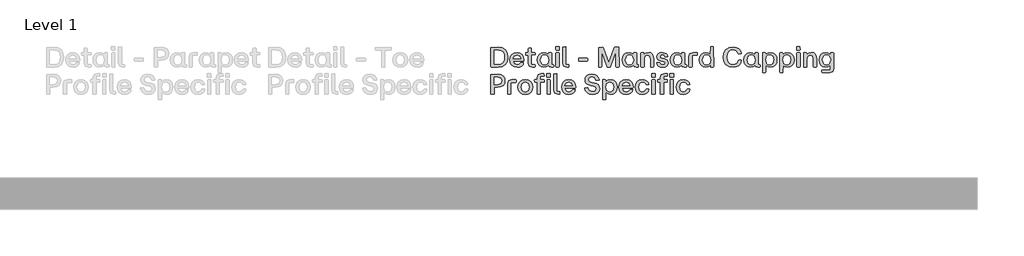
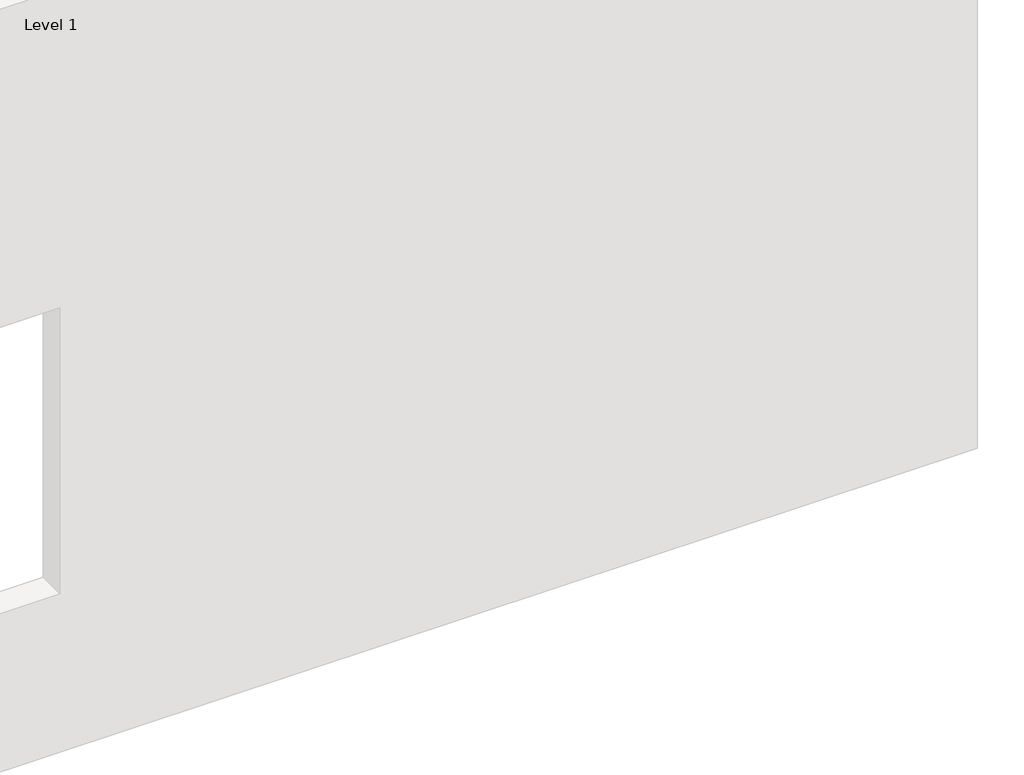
# One storey, part 64 of 64: 1 proxy.
"""IFC4 building model written with IfcOpenShell, lengths in millimetres."""

from ifc_helpers import new_model, si_unit, origin, origin_with_axes, place, context, project, spatial, polyline, outline, extrude, element, save

model = new_model("IFC4")

# Units and contexts
model_context = context("Model", 3, world=origin())
ifc_project = project(units=[si_unit("LENGTHUNIT", "METRE", prefix="MILLI")], contexts=[model_context])

# Site, building, storey
site = spatial("IfcSite", under=ifc_project)
building = spatial("IfcBuilding", under=site)
storey = spatial("IfcBuildingStorey", under=building, Name="Level 1", Elevation=0.0)

# Proxy
placement = place(None, origin())
element("IfcBuildingElementProxy", 1, Name="90mm", ObjectType="90mm", at=placement, inside=storey, context=model_context, shape_type="SweptSolid", body=[
    extrude(outline(polyline([(18110.2926176, 6000.0), (18108.9872124, 6001.2551973), (18108.9872124, 6088.6922388), (18142.5511873, 6089.997644), (18160.5475781, 6086.9945845), (18174.1193986, 6077.9854062), (18182.63905, 6063.6416394), (18185.4789338, 6044.6348148), (18182.648464, 6025.7974418), (18174.1570545, 6011.7109905), (18160.594648, 6002.9277476), (18142.5511873, 6000.0), (18110.2926176, 6000.0)]), holes=[polyline([(18123.7985402, 6012.6272845), (18141.6725492, 6012.6272845), (18153.8950326, 6014.688946), (18162.9481429, 6020.8739305), (18168.5494607, 6030.9374746), (18170.4165666, 6044.6348148), (18168.5431847, 6058.4890546), (18162.923039, 6068.8224661), (18153.8636527, 6075.2522141), (18141.6725492, 6077.3954634), (18123.7985402, 6077.3954634), (18123.7985402, 6012.6272845)])]), origin_with_axes(), (0.0, 0.0, 1.0), 20.0),
    extrude(outline(polyline([(18227.628458, 5999.2468816), (18214.0409476, 6001.5156507), (18203.5035666, 6008.3219579), (18196.7443293, 6018.9377888), (18194.4912502, 6032.6351289), (18196.7349153, 6046.4987827), (18203.4659107, 6057.2118914), (18213.9938777, 6064.0652685), (18227.628458, 6066.3497275), (18240.1584647, 6064.0966484), (18249.7324819, 6057.3374111), (18255.8044987, 6046.6870623), (18257.8285043, 6032.7606486), (18257.8285043, 6029.3214081), (18256.573307, 6027.990899), (18209.1268503, 6027.990899), (18214.6497183, 6015.3134066), (18227.628458, 6010.7946965), (18238.0465953, 6013.0917075), (18243.4439436, 6019.5308695), (18244.8246606, 6020.5852352), (18256.1967478, 6020.5852352), (18254.1633282, 6011.2685335), (18247.8120301, 6004.8074055), (18238.8248176, 6000.6370126), (18227.628458, 5999.2468816)]), holes=[polyline([(18209.2523701, 6038.4090363), (18243.8205028, 6038.4090363), (18239.0633051, 6050.3710663), (18227.628458, 6054.7266008), (18214.8631018, 6050.5844498), (18209.2523701, 6038.4090363)])]), origin_with_axes(), (0.0, 0.0, 1.0), 20.0),
    extrude(outline(polyline([(18296.6140998, 6000.0), (18282.731618, 6004.7697496), (18277.9618684, 6018.6522314), (18277.9618684, 6054.2245219), (18266.7906127, 6054.2245219), (18265.4852076, 6064.2661), (18266.7906127, 6065.5212973), (18277.9618684, 6065.5212973), (18277.9618684, 6083.54593), (18279.2170657, 6084.8513352), (18290.9657121, 6084.8513352), (18292.2209094, 6083.54593), (18292.2209094, 6065.5212973), (18308.0363949, 6065.5212973), (18309.3418001, 6064.2661), (18309.3418001, 6055.555031), (18292.2209094, 6054.2245219), (18292.2209094, 6011.2967754), (18308.0363949, 6011.2967754), (18309.3418001, 6010.0415781), (18309.3418001, 6001.2551973), (18308.0363949, 6000.0), (18296.6140998, 6000.0)])), origin_with_axes(), (0.0, 0.0, 1.0), 20.0),
    extrude(outline(polyline([(18347.2738615, 5999.2468816), (18335.3243835, 6001.5156507), (18326.0861316, 6008.3219579), (18320.1741525, 6018.9377888), (18318.2034928, 6032.6351289), (18320.1741525, 6046.4674028), (18326.0861316, 6057.1867875), (18335.3243835, 6064.0589925), (18347.2738615, 6066.3497275), (18359.1856835, 6063.4627738), (18368.160344, 6055.555031), (18368.7377347, 6064.2661), (18369.992932, 6065.5212973), (18381.6662665, 6065.5212973), (18382.9716717, 6064.2661), (18382.9716717, 6011.2967754), (18390.0760882, 6011.2967754), (18391.3312855, 6010.0415781), (18391.3312855, 6001.2551973), (18390.0760882, 6000.0), (18380.536589, 6000.0), (18372.1581473, 6002.3534949), (18369.3653333, 6009.4139795), (18359.7254183, 6002.1338354), (18347.2738615, 5999.2468816)]), holes=[polyline([(18332.7135732, 6032.6351289), (18337.6716024, 6016.6313638), (18343.5365116, 6012.2538633), (18351.2151809, 6010.7946965), (18358.7714684, 6012.2475873), (18364.470064, 6016.6062598), (18369.2398136, 6032.6351289), (18364.4324081, 6048.8271737), (18358.7243985, 6053.251744), (18351.2151809, 6054.7266008), (18343.5365116, 6053.251744), (18337.6716024, 6048.8271737), (18332.7135732, 6032.6351289)])]), origin_with_axes(), (0.0, 0.0, 1.0), 20.0),
    extrude(outline(polyline([(18403.6824266, 6000.0), (18402.3770214, 6001.2551973), (18402.3770214, 6064.2661), (18403.6824266, 6065.5212973), (18415.3557612, 6065.5212973), (18416.6109584, 6064.2661), (18416.6109584, 6001.2551973), (18415.3557612, 6000.0), (18403.6824266, 6000.0)])), origin_with_axes(), (0.0, 0.0, 1.0), 20.0),
    extrude(outline(polyline([(18401.3728636, 6078.1485818), (18401.3728636, 6092.0059596), (18402.6280609, 6093.3364687), (18416.4854387, 6093.3364687), (18417.8159478, 6078.1485818), (18416.4854387, 6076.8933845), (18402.6280609, 6076.8933845), (18401.3728636, 6078.1485818)])), origin_with_axes(), (0.0, 0.0, 1.0), 20.0),
    extrude(outline(polyline([(18451.5305464, 6000.0), (18437.6731686, 6004.7697496), (18432.903419, 6018.6522314), (18432.903419, 6091.2528413), (18445.8821587, 6092.5833504), (18447.137356, 6091.2528413), (18447.137356, 6011.2967754), (18459.1370418, 6011.2967754), (18460.3922391, 6010.0415781), (18460.3922391, 6001.2551973), (18459.1370418, 6000.0), (18451.5305464, 6000.0)])), origin_with_axes(), (0.0, 0.0, 1.0), 20.0),
    extrude(outline(polyline([(18505.1776775, 6027.112261), (18503.9224803, 6028.4427701), (18503.9224803, 6038.4090363), (18505.1776775, 6039.7395454), (18543.7875455, 6039.7395454), (18545.0427427, 6038.4090363), (18545.0427427, 6028.4427701), (18543.7875455, 6027.112261), (18505.1776775, 6027.112261)])), origin_with_axes(), (0.0, 0.0, 1.0), 20.0),
    extrude(outline(polyline([(18595.5016728, 6000.0), (18594.1962677, 6001.2551973), (18594.1962677, 6088.6922388), (18613.777345, 6089.997644), (18615.2835817, 6088.9432783), (18640.0611758, 6019.5308695), (18665.0396014, 6088.9432783), (18666.5458381, 6089.997644), (18685.0725498, 6089.997644), (18686.3779549, 6001.2551973), (18685.0725498, 6000.0), (18673.1481757, 6000.0), (18671.8176666, 6001.2551973), (18671.8176666, 6069.788968), (18647.4166318, 6001.0041578), (18645.910395, 6000.0), (18634.4127881, 6000.0), (18632.9065514, 6001.0041578), (18609.0075954, 6069.788968), (18608.5055165, 6001.2551973), (18607.1750074, 6000.0), (18595.5016728, 6000.0)])), origin_with_axes(), (0.0, 0.0, 1.0), 20.0),
    extrude(outline(polyline([(18729.6571566, 5999.2468816), (18717.7076787, 6001.5156507), (18708.4694268, 6008.3219579), (18702.5574477, 6018.9377888), (18700.586788, 6032.6351289), (18702.5574477, 6046.4674028), (18708.4694268, 6057.1867875), (18717.7076787, 6064.0589925), (18729.6571566, 6066.3497275), (18741.5689787, 6063.4627738), (18750.5436392, 6055.555031), (18751.1210299, 6064.2661), (18752.3762272, 6065.5212973), (18764.0495617, 6065.5212973), (18765.3549669, 6064.2661), (18765.3549669, 6011.2967754), (18772.4593834, 6011.2967754), (18773.7145807, 6010.0415781), (18773.7145807, 6001.2551973), (18772.4593834, 6000.0), (18762.9198842, 6000.0), (18754.5414425, 6002.3534949), (18751.7486285, 6009.4139795), (18742.1087135, 6002.1338354), (18729.6571566, 5999.2468816)]), holes=[polyline([(18715.0968684, 6032.6351289), (18720.0548976, 6016.6313638), (18725.9198068, 6012.2538633), (18733.5984761, 6010.7946965), (18741.1547636, 6012.2475873), (18746.8533592, 6016.6062598), (18751.6231088, 6032.6351289), (18746.8157033, 6048.8271737), (18741.1076937, 6053.251744), (18733.5984761, 6054.7266008), (18725.9198068, 6053.251744), (18720.0548976, 6048.8271737), (18715.0968684, 6032.6351289)])]), origin_with_axes(), (0.0, 0.0, 1.0), 20.0),
    extrude(outline(polyline([(18786.0657218, 6000.0), (18784.7603166, 6001.2551973), (18784.7603166, 6064.2661), (18786.0657218, 6065.5212973), (18797.1114577, 6065.5212973), (18798.366655, 6064.2661), (18798.366655, 6055.555031), (18807.6613908, 6063.6510534), (18819.5794888, 6066.3497275), (18829.5049612, 6064.4669316), (18836.7882433, 6058.8185439), (18841.2598836, 6049.5426361), (18842.7504303, 6036.7772799), (18842.7504303, 6001.2551973), (18841.4199212, 6000.0), (18829.7465867, 6000.0), (18828.4411815, 6001.2551973), (18828.4411815, 6036.7772799), (18824.9266292, 6050.057267), (18813.8181334, 6054.2245219), (18802.6092218, 6049.9945071), (18798.9942536, 6036.7772799), (18798.9942536, 6001.2551973), (18797.7390564, 6000.0), (18786.0657218, 6000.0)])), origin_with_axes(), (0.0, 0.0, 1.0), 20.0),
    extrude(outline(polyline([(18882.9418468, 5999.2468816), (18871.9996646, 6000.5742527), (18863.6243609, 6004.5563661), (18858.066975, 6011.017494), (18855.5785464, 6019.7819089), (18856.7082239, 6021.2128338), (18868.0803112, 6021.2128338), (18869.3355084, 6020.0329484), (18873.6282831, 6012.5519727), (18882.9418468, 6010.2926176), (18890.9751093, 6012.4264529), (18893.9875827, 6018.1501525), (18891.8286434, 6023.2964613), (18884.5233954, 6025.9825834), (18875.3604553, 6027.6143399), (18861.4528696, 6033.990742), (18856.9592634, 6046.7686501), (18858.6067098, 6054.7862227), (18863.549049, 6061.0151391), (18871.2842022, 6065.0160804), (18881.3100904, 6066.3497275), (18898.7573324, 6061.3916983), (18903.9224691, 6055.3949934), (18906.3638278, 6047.3209369), (18893.862063, 6045.8900121), (18892.481346, 6047.0698975), (18888.9165858, 6053.3835397), (18881.3100904, 6055.3039916), (18873.653387, 6053.3207799), (18871.0174728, 6047.5719764), (18872.9002687, 6042.5888432), (18879.7536457, 6039.8650652), (18889.5441844, 6038.0324772), (18903.966401, 6031.7564908), (18908.0457921, 6018.9032708), (18906.4140357, 6010.5154151), (18901.5187663, 6004.3304306), (18893.6110236, 6000.5177689), (18882.9418468, 5999.2468816)])), origin_with_axes(), (0.0, 0.0, 1.0), 20.0),
    extrude(outline(polyline([(18946.5552443, 5999.2468816), (18934.6057663, 6001.5156507), (18925.3675144, 6008.3219579), (18919.4555353, 6018.9377888), (18917.4848756, 6032.6351289), (18919.4555353, 6046.4674028), (18925.3675144, 6057.1867875), (18934.6057663, 6064.0589925), (18946.5552443, 6066.3497275), (18958.4670663, 6063.4627738), (18967.4417268, 6055.555031), (18968.0191175, 6064.2661), (18969.2743148, 6065.5212973), (18980.9476494, 6065.5212973), (18982.2530545, 6064.2661), (18982.2530545, 6011.2967754), (18989.357471, 6011.2967754), (18990.6126683, 6010.0415781), (18990.6126683, 6001.2551973), (18989.357471, 6000.0), (18979.8179718, 6000.0), (18971.4395301, 6002.3534949), (18968.6467161, 6009.4139795), (18959.0068011, 6002.1338354), (18946.5552443, 5999.2468816)]), holes=[polyline([(18931.994956, 6032.6351289), (18936.9529852, 6016.6313638), (18942.8178944, 6012.2538633), (18950.4965637, 6010.7946965), (18958.0528512, 6012.2475873), (18963.7514468, 6016.6062598), (18968.5211964, 6032.6351289), (18963.7137909, 6048.8271737), (18958.0057813, 6053.251744), (18950.4965637, 6054.7266008), (18942.8178944, 6053.251744), (18936.9529852, 6048.8271737), (18931.994956, 6032.6351289)])]), origin_with_axes(), (0.0, 0.0, 1.0), 20.0),
    extrude(outline(polyline([(19002.2860029, 6000.0), (19001.0308056, 6001.2551973), (19001.0308056, 6046.9443778), (19005.8005552, 6060.7892036), (19019.657933, 6065.5212973), (19037.9336052, 6065.5212973), (19039.1888025, 6064.2661), (19039.1888025, 6054.7266008), (19037.9336052, 6053.4714035), (19015.2647426, 6053.4714035), (19015.2647426, 6001.2551973), (19014.0095453, 6000.0), (19002.2860029, 6000.0)])), origin_with_axes(), (0.0, 0.0, 1.0), 20.0),
    extrude(outline(polyline([(19076.6940968, 5999.2468816), (19064.7446189, 6001.5156507), (19055.506367, 6008.3219579), (19049.5943878, 6018.9377888), (19047.6237281, 6032.6351289), (19049.5943878, 6046.4674028), (19055.506367, 6057.1867875), (19064.7446189, 6064.0589925), (19076.6940968, 6066.3497275), (19088.6059189, 6063.4627738), (19097.5805793, 6055.555031), (19098.1579701, 6091.2528413), (19099.4131673, 6092.5833504), (19111.0865019, 6092.5833504), (19112.3919071, 6001.2551973), (19111.0865019, 6000.0), (19100.040766, 6000.0), (19098.7855687, 6001.2551973), (19098.7855687, 6009.9160584), (19089.1456537, 6002.1338354), (19076.6940968, 5999.2468816)]), holes=[polyline([(19062.1338085, 6032.6351289), (19067.0918377, 6016.6313638), (19072.956747, 6012.2538633), (19080.6354162, 6010.7946965), (19088.1917038, 6012.2475873), (19093.8902994, 6016.6062598), (19098.660049, 6032.6351289), (19093.8526435, 6048.8271737), (19088.1446339, 6053.251744), (19080.6354162, 6054.7266008), (19072.956747, 6053.251744), (19067.0918377, 6048.8271737), (19062.1338085, 6032.6351289)])]), origin_with_axes(), (0.0, 0.0, 1.0), 20.0),
    extrude(outline(polyline([(19199.5779092, 5999.2468816), (19181.5658284, 6002.3315289), (19167.6958986, 6011.5854708), (19158.8467579, 6026.1112411), (19155.8970443, 6045.011374), (19158.8718618, 6063.5945695), (19167.7963144, 6078.1736857), (19181.6913481, 6087.6064932), (19199.5779092, 6090.7507624), (19213.5262888, 6088.6734109), (19225.0960696, 6082.4413564), (19233.4148895, 6072.7575095), (19237.6103864, 6060.3247806), (19224.4308151, 6058.8687518), (19222.9998902, 6059.9984293), (19215.1360793, 6073.6110437), (19199.5779092, 6078.1485818), (19187.6535352, 6075.9268826), (19178.5910109, 6069.2617852), (19172.8673114, 6058.755784), (19170.9594115, 6045.011374), (19172.8578974, 6031.0535804), (19178.553355, 6020.5601312), (19187.6064653, 6013.9891735), (19199.5779092, 6011.7988543), (19215.4436026, 6016.2736326), (19223.8785283, 6029.6979673), (19225.3094532, 6030.8778528), (19237.2338272, 6030.8778528), (19234.0613161, 6017.1208907), (19225.5981485, 6007.5311836), (19213.8400881, 6001.3179571), (19199.5779092, 5999.2468816)])), origin_with_axes(), (0.0, 0.0, 1.0), 20.0),
    extrude(outline(polyline([(19277.5256594, 5999.2468816), (19265.5761815, 6001.5156507), (19256.3379296, 6008.3219579), (19250.4259504, 6018.9377888), (19248.4552907, 6032.6351289), (19250.4259504, 6046.4674028), (19256.3379296, 6057.1867875), (19265.5761815, 6064.0589925), (19277.5256594, 6066.3497275), (19289.4374815, 6063.4627738), (19298.4121419, 6055.555031), (19298.9895327, 6064.2661), (19300.2447299, 6065.5212973), (19311.9180645, 6065.5212973), (19313.2234697, 6064.2661), (19313.2234697, 6011.2967754), (19320.3278862, 6011.2967754), (19321.5830835, 6010.0415781), (19321.5830835, 6001.2551973), (19320.3278862, 6000.0), (19310.788387, 6000.0), (19302.4099452, 6002.3534949), (19299.6171313, 6009.4139795), (19289.9772163, 6002.1338354), (19277.5256594, 5999.2468816)]), holes=[polyline([(19262.9653711, 6032.6351289), (19267.9234003, 6016.6313638), (19273.7883096, 6012.2538633), (19281.4669788, 6010.7946965), (19289.0232664, 6012.2475873), (19294.721862, 6016.6062598), (19299.4916116, 6032.6351289), (19294.6842061, 6048.8271737), (19288.9761965, 6053.251744), (19281.4669788, 6054.7266008), (19273.7883096, 6053.251744), (19267.9234003, 6048.8271737), (19262.9653711, 6032.6351289)])]), origin_with_axes(), (0.0, 0.0, 1.0), 20.0),
    extrude(outline(polyline([(19333.9342246, 5975.5989651), (19332.6288194, 5976.8541624), (19332.6288194, 6064.2661), (19333.9342246, 6065.5212973), (19344.9799605, 6065.5212973), (19346.2351578, 6064.2661), (19346.2351578, 6055.6805507), (19355.8750728, 6063.4627738), (19368.3266297, 6066.3497275), (19380.2761076, 6064.0746824), (19389.5143595, 6057.2495473), (19395.4263386, 6046.6086125), (19397.3969984, 6032.8861684), (19395.4263386, 6019.0789984), (19389.5143595, 6008.3847177), (19380.2761076, 6001.5313407), (19368.3266297, 5999.2468816), (19356.4148076, 6002.1338354), (19347.4401472, 6010.0415781), (19346.8627564, 5976.8541624), (19345.6075591, 5975.5989651), (19333.9342246, 5975.5989651)]), holes=[polyline([(19346.3606775, 6032.8861684), (19351.168083, 6016.6941236), (19356.8760926, 6012.2695533), (19364.3853103, 6010.7946965), (19372.0639795, 6012.2695533), (19377.9288888, 6016.6941236), (19382.886918, 6032.8861684), (19377.9288888, 6048.8899335), (19372.0639795, 6053.267434), (19364.3853103, 6054.7266008), (19356.8290227, 6053.276848), (19351.1304271, 6048.9275894), (19346.3606775, 6032.8861684)])]), origin_with_axes(), (0.0, 0.0, 1.0), 20.0),
    extrude(outline(polyline([(19411.0535446, 5975.5989651), (19409.7481395, 5976.8541624), (19409.7481395, 6064.2661), (19411.0535446, 6065.5212973), (19422.0992806, 6065.5212973), (19423.3544778, 6064.2661), (19423.3544778, 6055.6805507), (19432.9943928, 6063.4627738), (19445.4459497, 6066.3497275), (19457.3954277, 6064.0746824), (19466.6336796, 6057.2495473), (19472.5456587, 6046.6086125), (19474.5163184, 6032.8861684), (19472.5456587, 6019.0789984), (19466.6336796, 6008.3847177), (19457.3954277, 6001.5313407), (19445.4459497, 5999.2468816), (19433.5341277, 6002.1338354), (19424.5594672, 6010.0415781), (19423.9820765, 5976.8541624), (19422.7268792, 5975.5989651), (19411.0535446, 5975.5989651)]), holes=[polyline([(19423.4799975, 6032.8861684), (19428.2874031, 6016.6941236), (19433.9954126, 6012.2695533), (19441.5046303, 6010.7946965), (19449.1832996, 6012.2695533), (19455.0482088, 6016.6941236), (19460.006238, 6032.8861684), (19455.0482088, 6048.8899335), (19449.1832996, 6053.267434), (19441.5046303, 6054.7266008), (19433.9483427, 6053.276848), (19428.2497472, 6048.9275894), (19423.4799975, 6032.8861684)])]), origin_with_axes(), (0.0, 0.0, 1.0), 20.0),
    extrude(outline(polyline([(19488.1728647, 6000.0), (19486.8674595, 6001.2551973), (19486.8674595, 6064.2661), (19488.1728647, 6065.5212973), (19499.8461992, 6065.5212973), (19501.1013965, 6064.2661), (19501.1013965, 6001.2551973), (19499.8461992, 6000.0), (19488.1728647, 6000.0)])), origin_with_axes(), (0.0, 0.0, 1.0), 20.0),
    extrude(outline(polyline([(19485.8633017, 6078.1485818), (19485.8633017, 6092.0059596), (19487.1184989, 6093.3364687), (19500.9758768, 6093.3364687), (19502.3063859, 6078.1485818), (19500.9758768, 6076.8933845), (19487.1184989, 6076.8933845), (19485.8633017, 6078.1485818)])), origin_with_axes(), (0.0, 0.0, 1.0), 20.0),
    extrude(outline(polyline([(19518.6992622, 6000.0), (19517.393857, 6001.2551973), (19517.393857, 6064.2661), (19518.6992622, 6065.5212973), (19529.7449981, 6065.5212973), (19531.0001954, 6064.2661), (19531.0001954, 6055.555031), (19540.2949311, 6063.6510534), (19552.2130292, 6066.3497275), (19562.1385016, 6064.4669316), (19569.4217837, 6058.8185439), (19573.893424, 6049.5426361), (19575.3839707, 6036.7772799), (19575.3839707, 6001.2551973), (19574.0534616, 6000.0), (19562.380127, 6000.0), (19561.0747219, 6001.2551973), (19561.0747219, 6036.7772799), (19557.5601695, 6050.057267), (19546.4516737, 6054.2245219), (19535.2427621, 6049.9945071), (19531.627794, 6036.7772799), (19531.627794, 6001.2551973), (19530.3725967, 6000.0), (19518.6992622, 6000.0)])), origin_with_axes(), (0.0, 0.0, 1.0), 20.0),
    extrude(outline(polyline([(19601.0904107, 5975.5989651), (19599.7599016, 5976.8541624), (19599.7599016, 5985.6405433), (19601.0904107, 5986.8957405), (19637.9932104, 5986.8957405), (19637.9932104, 6010.0415781), (19628.4411592, 6002.1338354), (19616.5293371, 5999.2468816), (19604.5798591, 6001.5313407), (19595.3416072, 6008.3847177), (19589.4296281, 6019.0789984), (19587.4589684, 6032.8861684), (19589.4296281, 6046.6086125), (19595.3416072, 6057.2495473), (19604.5798591, 6064.0746824), (19616.5293371, 6066.3497275), (19628.980894, 6063.4627738), (19638.1187301, 6055.6805507), (19638.620809, 6064.2661), (19639.8760063, 6065.5212973), (19650.9217422, 6065.5212973), (19652.2271474, 6064.2661), (19652.2271474, 5993.5984939), (19647.5829175, 5980.2055391), (19634.2276186, 5975.5989651), (19601.0904107, 5975.5989651)]), holes=[polyline([(19601.9690488, 6032.8861684), (19606.927078, 6016.6941236), (19612.7919872, 6012.2695533), (19620.4706565, 6010.7946965), (19627.9798742, 6012.2695533), (19633.6878837, 6016.6941236), (19638.4952893, 6032.8861684), (19633.7255396, 6048.9275894), (19628.0269441, 6053.276848), (19620.4706565, 6054.7266008), (19612.7919872, 6053.267434), (19606.927078, 6048.8899335), (19601.9690488, 6032.8861684)])]), origin_with_axes(), (0.0, 0.0, 1.0), 20.0),
    extrude(outline(polyline([(18110.2926176, 5877.86695), (18108.9872124, 5879.1221472), (18108.9872124, 5966.5591888), (18140.1161046, 5967.864594), (18154.0174144, 5965.9661081), (18164.3414119, 5960.2706505), (18170.7429179, 5951.0763305), (18172.8767533, 5938.6812575), (18170.7429179, 5926.2861845), (18164.3414119, 5917.0918646), (18154.0174144, 5911.396407), (18140.1161046, 5909.4979211), (18123.7985402, 5909.4979211), (18123.7985402, 5879.1221472), (18122.4680311, 5877.86695), (18110.2926176, 5877.86695)]), holes=[polyline([(18123.7985402, 5922.1252056), (18140.1161046, 5922.1252056), (18153.5969233, 5926.2045967), (18157.9901137, 5938.6938095), (18153.5969233, 5951.1830223), (18140.1161046, 5955.2624134), (18123.7985402, 5955.2624134), (18123.7985402, 5922.1252056)])]), origin_with_axes(), (0.0, 0.0, 1.0), 20.0),
    extrude(outline(polyline([(18186.1065325, 5877.86695), (18184.8513352, 5879.1221472), (18184.8513352, 5924.8113277), (18189.6210848, 5938.6561536), (18203.4784626, 5943.3882473), (18221.7541348, 5943.3882473), (18223.0093321, 5942.13305), (18223.0093321, 5932.5935508), (18221.7541348, 5931.3383535), (18199.0852722, 5931.3383535), (18199.0852722, 5879.1221472), (18197.8300749, 5877.86695), (18186.1065325, 5877.86695)])), origin_with_axes(), (0.0, 0.0, 1.0), 20.0),
    extrude(outline(polyline([(18264.2049064, 5877.1138316), (18250.9782652, 5879.4202566), (18240.519334, 5886.3395315), (18233.7130268, 5896.9930183), (18231.4442577, 5910.5020789), (18233.7193028, 5924.0990033), (18240.5444379, 5934.8654578), (18251.0096451, 5941.8788726), (18264.2049064, 5944.2166775), (18277.5570673, 5941.8788726), (18288.0913103, 5934.8654578), (18294.9352734, 5924.0990033), (18297.2165945, 5910.5020789), (18294.9352734, 5896.9930183), (18288.0913103, 5886.3395315), (18277.5570673, 5879.4202566), (18264.2049064, 5877.1138316)]), holes=[polyline([(18245.9543381, 5910.5020789), (18250.8119515, 5894.4732098), (18256.588997, 5890.1145373), (18264.2049064, 5888.6616465), (18271.9024036, 5890.1208133), (18277.7735888, 5894.4983138), (18282.731618, 5910.5020789), (18277.7986928, 5926.6941236), (18271.9337835, 5931.118694), (18264.2049064, 5932.5935508), (18256.588997, 5931.118694), (18250.8119515, 5926.6941236), (18245.9543381, 5910.5020789)])]), origin_with_axes(), (0.0, 0.0, 1.0), 20.0),
    extrude(outline(polyline([(18319.3833782, 5877.86695), (18318.1281809, 5879.1221472), (18318.1281809, 5932.0914719), (18306.9569253, 5932.0914719), (18305.6515201, 5942.13305), (18306.9569253, 5943.3882473), (18318.1281809, 5943.3882473), (18318.1281809, 5951.798069), (18322.8979305, 5965.6805507), (18336.7804123, 5970.4503003), (18348.2027074, 5970.4503003), (18349.5081126, 5960.4087222), (18332.3872219, 5959.0782131), (18332.3872219, 5943.3882473), (18348.2027074, 5943.3882473), (18349.5081126, 5942.13305), (18349.5081126, 5933.421981), (18332.3872219, 5932.0914719), (18332.3872219, 5879.1221472), (18331.1320246, 5877.86695), (18319.3833782, 5877.86695)])), origin_with_axes(), (0.0, 0.0, 1.0), 20.0),
    extrude(outline(polyline([(18361.3069669, 5956.0155318), (18361.3069669, 5969.8729096), (18362.5621642, 5971.2034187), (18376.4948538, 5971.2034187), (18377.7500511, 5969.8729096), (18377.7500511, 5956.0155318), (18376.4948538, 5954.7603345), (18362.5621642, 5954.7603345), (18361.3069669, 5956.0155318)])), origin_with_axes(), (0.0, 0.0, 1.0), 20.0),
    extrude(outline(polyline([(18362.3111247, 5879.1221472), (18362.3111247, 5942.13305), (18363.6416338, 5943.3882473), (18375.3149684, 5943.3882473), (18376.6203735, 5942.13305), (18376.6203735, 5879.1221472), (18375.3149684, 5877.86695), (18363.6416338, 5877.86695), (18362.3111247, 5879.1221472)])), origin_with_axes(), (0.0, 0.0, 1.0), 20.0),
    extrude(outline(polyline([(18411.3642339, 5877.86695), (18397.506856, 5882.6366996), (18392.7371064, 5896.5191814), (18392.7371064, 5969.1197912), (18405.7158462, 5970.4503003), (18406.9710434, 5969.1197912), (18406.9710434, 5889.1637254), (18418.9707293, 5889.1637254), (18420.2259266, 5887.9085281), (18420.2259266, 5879.1221472), (18418.9707293, 5877.86695), (18411.3642339, 5877.86695)])), origin_with_axes(), (0.0, 0.0, 1.0), 20.0),
    extrude(outline(polyline([(18460.5930707, 5877.1138316), (18447.0055602, 5879.3826007), (18436.4681792, 5886.1889079), (18429.7089419, 5896.8047387), (18427.4558628, 5910.5020789), (18429.6995279, 5924.3657327), (18436.4305233, 5935.0788414), (18446.9584903, 5941.9322185), (18460.5930707, 5944.2166775), (18473.1230774, 5941.9635984), (18482.6970945, 5935.2043611), (18488.7691113, 5924.5540123), (18490.7931169, 5910.6275986), (18490.7931169, 5907.1883581), (18489.5379196, 5905.857849), (18442.0914629, 5905.857849), (18447.6143309, 5893.1803566), (18460.5930707, 5888.6616465), (18471.011208, 5890.9586575), (18476.4085562, 5897.3978194), (18477.7892732, 5898.4521852), (18489.1613604, 5898.4521852), (18487.1279409, 5889.1354834), (18480.7766427, 5882.6743555), (18471.7894303, 5878.5039626), (18460.5930707, 5877.1138316)]), holes=[polyline([(18442.2169827, 5916.2759863), (18476.7851154, 5916.2759863), (18472.0279177, 5928.2380163), (18460.5930707, 5932.5935508), (18447.8277145, 5928.4513998), (18442.2169827, 5916.2759863)])]), origin_with_axes(), (0.0, 0.0, 1.0), 20.0),
    extrude(outline(polyline([(18566.8831752, 5877.1138316), (18553.1136611, 5878.9652476), (18542.4319324, 5884.5194955), (18535.1706162, 5893.4941559), (18531.6623399, 5905.6068096), (18544.917223, 5907.0628384), (18546.2226282, 5905.857849), (18552.4107507, 5893.3058764), (18566.8831752, 5889.4147648), (18579.3974919, 5892.992077), (18583.8785461, 5902.9206874), (18580.7782089, 5911.1673335), (18570.3977275, 5915.2718285), (18558.5235614, 5917.355456), (18547.5186193, 5920.6095549), (18539.6579465, 5925.9284533), (18534.9415427, 5933.3121512), (18533.3694082, 5942.7606486), (18535.3839998, 5953.602415), (18541.4277746, 5961.7768872), (18551.0802416, 5966.9075061), (18563.9209096, 5968.6177123), (18576.6548859, 5966.8855401), (18586.5897722, 5961.6890234), (18593.3803895, 5953.3356856), (18596.6815583, 5942.13305), (18583.501987, 5940.7021251), (18582.0710621, 5942.13305), (18576.2594987, 5952.8398827), (18563.9209096, 5956.2665712), (18552.1597112, 5953.1285781), (18548.1054241, 5943.965638), (18551.7203922, 5935.267121), (18563.0422715, 5930.7107549), (18574.8411258, 5928.6522314), (18585.6609263, 5925.4828583), (18593.0163822, 5920.3930334), (18597.2338451, 5913.0626813), (18598.639666, 5903.1717269), (18596.5277966, 5892.2577866), (18590.1921884, 5884.0174166), (18580.1411963, 5878.8397279), (18566.8831752, 5877.1138316)])), origin_with_axes(), (0.0, 0.0, 1.0), 20.0),
    extrude(outline(polyline([(18614.1539042, 5853.4659151), (18612.848499, 5854.7211124), (18612.848499, 5942.13305), (18614.1539042, 5943.3882473), (18625.1996401, 5943.3882473), (18626.4548374, 5942.13305), (18626.4548374, 5933.5475007), (18636.0947524, 5941.3297238), (18648.5463093, 5944.2166775), (18660.4957873, 5941.9416324), (18669.7340392, 5935.1164973), (18675.6460183, 5924.4755625), (18677.616678, 5910.7531184), (18675.6460183, 5896.9459484), (18669.7340392, 5886.2516677), (18660.4957873, 5879.3982906), (18648.5463093, 5877.1138316), (18636.6344872, 5880.0007853), (18627.6598268, 5887.9085281), (18627.082436, 5854.7211124), (18625.8272388, 5853.4659151), (18614.1539042, 5853.4659151)]), holes=[polyline([(18626.5803571, 5910.7531184), (18631.3877627, 5894.5610736), (18637.0957722, 5890.1365033), (18644.6049899, 5888.6616465), (18652.2836592, 5890.1365033), (18658.1485684, 5894.5610736), (18663.1065976, 5910.7531184), (18658.1485684, 5926.7568835), (18652.2836592, 5931.134384), (18644.6049899, 5932.5935508), (18637.0487023, 5931.143798), (18631.3501068, 5926.7945394), (18626.5803571, 5910.7531184)])]), origin_with_axes(), (0.0, 0.0, 1.0), 20.0),
    extrude(outline(polyline([(18719.2641233, 5877.1138316), (18705.6766129, 5879.3826007), (18695.1392318, 5886.1889079), (18688.3799945, 5896.8047387), (18686.1269155, 5910.5020789), (18688.3705806, 5924.3657327), (18695.1015759, 5935.0788414), (18705.629543, 5941.9322185), (18719.2641233, 5944.2166775), (18731.79413, 5941.9635984), (18741.3681471, 5935.2043611), (18747.4401639, 5924.5540123), (18749.4641695, 5910.6275986), (18749.4641695, 5907.1883581), (18748.2089722, 5905.857849), (18700.7625156, 5905.857849), (18706.2853836, 5893.1803566), (18719.2641233, 5888.6616465), (18729.6822606, 5890.9586575), (18735.0796088, 5897.3978194), (18736.4603258, 5898.4521852), (18747.8324131, 5898.4521852), (18745.7989935, 5889.1354834), (18739.4476953, 5882.6743555), (18730.4604829, 5878.5039626), (18719.2641233, 5877.1138316)]), holes=[polyline([(18700.8880353, 5916.2759863), (18735.456168, 5916.2759863), (18730.6989704, 5928.2380163), (18719.2641233, 5932.5935508), (18706.4987671, 5928.4513998), (18700.8880353, 5916.2759863)])]), origin_with_axes(), (0.0, 0.0, 1.0), 20.0),
    extrude(outline(polyline([(18791.4379661, 5877.1138316), (18777.9445955, 5879.3826007), (18767.4385944, 5886.1889079), (18760.6793571, 5896.8047387), (18758.426278, 5910.5020789), (18760.710737, 5924.0990033), (18767.5641141, 5934.8654578), (18778.1014951, 5941.8788726), (18791.4379661, 5944.2166775), (18802.4209422, 5942.6696468), (18811.3704987, 5938.028555), (18817.6841409, 5930.8456886), (18820.7593742, 5921.6733346), (18808.1320897, 5920.2926176), (18801.7054797, 5929.8321168), (18791.4379661, 5932.5935508), (18783.680847, 5931.118694), (18777.8316277, 5926.6941236), (18772.9363584, 5910.5020789), (18777.8567317, 5894.4355539), (18783.7122269, 5890.1051233), (18791.4379661, 5888.6616465), (18802.019279, 5891.2975607), (18807.3789714, 5899.8329021), (18808.7596884, 5901.0378915), (18820.1317756, 5901.0378915), (18818.12346, 5890.5287524), (18811.7470579, 5883.3019541), (18802.7033616, 5878.6608623), (18791.4379661, 5877.1138316)])), origin_with_axes(), (0.0, 0.0, 1.0), 20.0),
    extrude(outline(polyline([(18835.8719493, 5877.86695), (18834.5665442, 5879.1221472), (18834.5665442, 5942.13305), (18835.8719493, 5943.3882473), (18847.5452839, 5943.3882473), (18848.8004812, 5942.13305), (18848.8004812, 5879.1221472), (18847.5452839, 5877.86695), (18835.8719493, 5877.86695)])), origin_with_axes(), (0.0, 0.0, 1.0), 20.0),
    extrude(outline(polyline([(18833.5623863, 5956.0155318), (18833.5623863, 5969.8729096), (18834.8175836, 5971.2034187), (18848.6749614, 5971.2034187), (18850.0054705, 5956.0155318), (18848.6749614, 5954.7603345), (18834.8175836, 5954.7603345), (18833.5623863, 5956.0155318)])), origin_with_axes(), (0.0, 0.0, 1.0), 20.0),
    extrude(outline(polyline([(18873.678491, 5877.86695), (18872.4232937, 5879.1221472), (18872.4232937, 5932.0914719), (18861.252038, 5932.0914719), (18859.9466329, 5942.13305), (18861.252038, 5943.3882473), (18872.4232937, 5943.3882473), (18872.4232937, 5951.798069), (18877.1930433, 5965.6805507), (18891.0755251, 5970.4503003), (18902.4978202, 5970.4503003), (18903.8032254, 5960.4087222), (18886.6823347, 5959.0782131), (18886.6823347, 5943.3882473), (18902.4978202, 5943.3882473), (18903.8032254, 5942.13305), (18903.8032254, 5933.421981), (18886.6823347, 5932.0914719), (18886.6823347, 5879.1221472), (18885.4271374, 5877.86695), (18873.678491, 5877.86695)])), origin_with_axes(), (0.0, 0.0, 1.0), 20.0),
    extrude(outline(polyline([(18915.6020797, 5956.0155318), (18915.6020797, 5969.8729096), (18916.8572769, 5971.2034187), (18930.7899666, 5971.2034187), (18932.0451639, 5969.8729096), (18932.0451639, 5956.0155318), (18930.7899666, 5954.7603345), (18916.8572769, 5954.7603345), (18915.6020797, 5956.0155318)])), origin_with_axes(), (0.0, 0.0, 1.0), 20.0),
    extrude(outline(polyline([(18916.6062375, 5879.1221472), (18916.6062375, 5942.13305), (18917.9367466, 5943.3882473), (18929.6100812, 5943.3882473), (18930.9154863, 5942.13305), (18930.9154863, 5879.1221472), (18929.6100812, 5877.86695), (18917.9367466, 5877.86695), (18916.6062375, 5879.1221472)])), origin_with_axes(), (0.0, 0.0, 1.0), 20.0),
    extrude(outline(polyline([(18976.2030037, 5877.1138316), (18962.7096331, 5879.3826007), (18952.203632, 5886.1889079), (18945.4443947, 5896.8047387), (18943.1913156, 5910.5020789), (18945.4757746, 5924.0990033), (18952.3291517, 5934.8654578), (18962.8665327, 5941.8788726), (18976.2030037, 5944.2166775), (18987.1859798, 5942.6696468), (18996.1355363, 5938.028555), (19002.4491785, 5930.8456886), (19005.5244118, 5921.6733346), (18992.8971273, 5920.2926176), (18986.4705173, 5929.8321168), (18976.2030037, 5932.5935508), (18968.4458846, 5931.118694), (18962.5966653, 5926.6941236), (18957.701396, 5910.5020789), (18962.6217693, 5894.4355539), (18968.4772645, 5890.1051233), (18976.2030037, 5888.6616465), (18986.7843166, 5891.2975607), (18992.144009, 5899.8329021), (18993.524726, 5901.0378915), (19004.8968132, 5901.0378915), (19002.8884976, 5890.5287524), (18996.5120955, 5883.3019541), (18987.4683992, 5878.6608623), (18976.2030037, 5877.1138316)])), origin_with_axes(), (0.0, 0.0, 1.0), 20.0),
])

save(model, "model.ifc")
